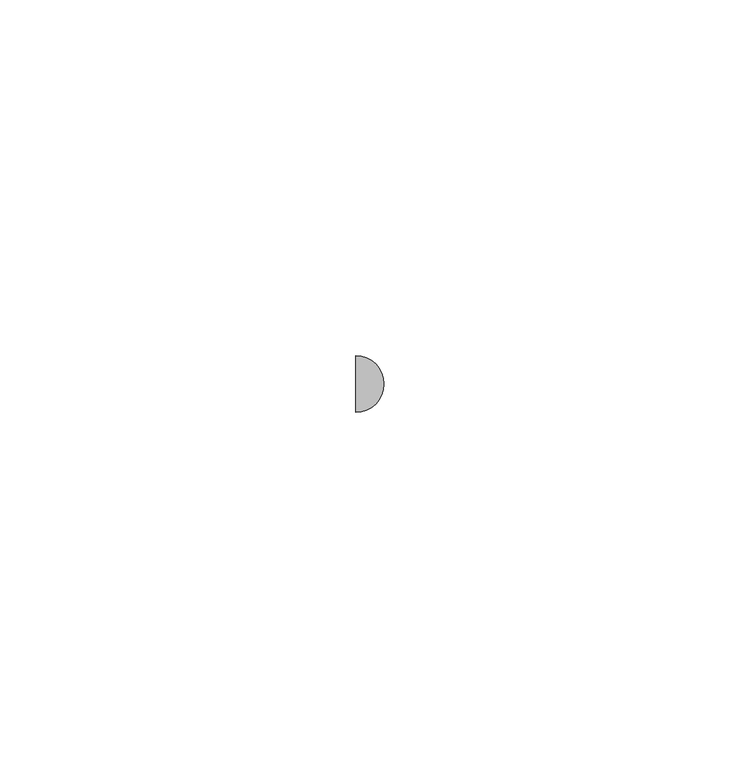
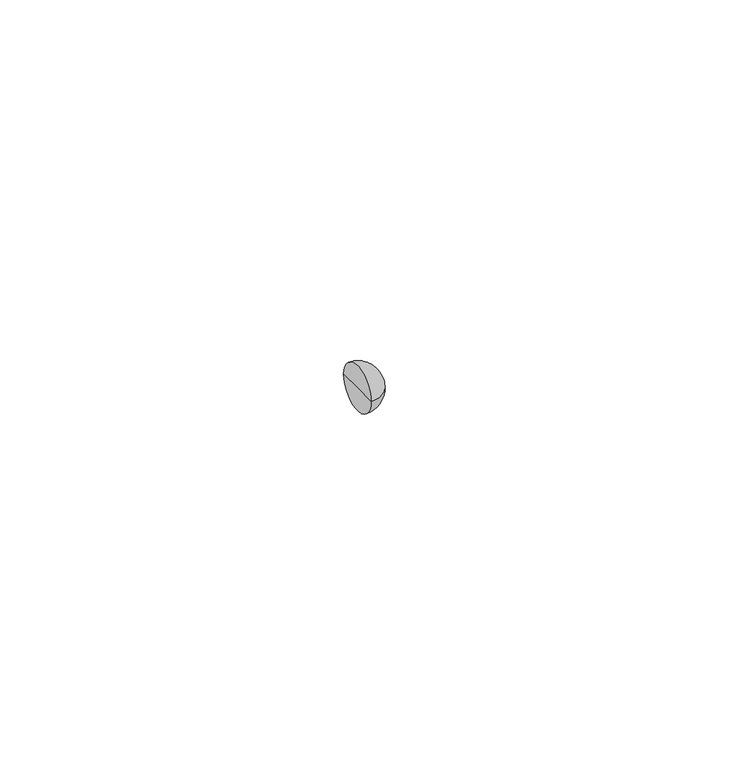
"""IFC4 building model written with IfcOpenShell, lengths in millimetres: pipe fitting geometry, NLRS_52_PIF_UN_PE multi T-stuk_geb : Liggend - Var. DN/OD."""

from ifc_helpers import new_model, si_unit, point, frame, origin, place, context, project, spatial, circle_curve, ellipse_curve, trimmed, source, transform, mapped, element, save
from ifc_brep_helpers import plane_surface, revolved_surface, advanced_brep


def pipe_fitting_bb3acb3a(model_context):
    return source(origin(), model_context, "Body", "AdvancedBrep", [
        advanced_brep(
        [(-85.0, 0.0, 0.0), (-85.0, 4.0, 0.0), (-85.0, -4.0, 0.0), (-81.0, 0.0, 0.0)],
        [
            (0, 1),
            (1, 2, circle_curve(frame((-85.0, 0.0, 0.0), z_axis=(-1.0, 0.0, 0.0), x_axis=(0.0, 1.0, 0.0)), 4.0)),
            (2, 0),
            (2, 1, circle_curve(frame((-85.0, 0.0, 0.0), z_axis=(-1.0, 0.0, 0.0), x_axis=(0.0, 1.0, 0.0)), 4.0)),
            (1, 3, circle_curve(frame((-85.0, 0.0, 0.0), z_axis=(0.0, 0.0, -1.0), x_axis=(-1.0, 0.0, 0.0)), 4.0)),
            (3, 2, circle_curve(frame((-85.0, 0.0, 0.0), z_axis=(0.0, 0.0, -1.0), x_axis=(-1.0, 0.0, 0.0)), 4.0)),
        ],
        [
            plane_surface(frame((-85.0, 0.0, 0.0), z_axis=(-1.0, 0.0, 0.0), x_axis=(0.0, 1.0, 0.0))),
            revolved_surface(trimmed(ellipse_curve(frame((-85.0, 0.0, 0.0), z_axis=(0.0, 0.0, 1.0), x_axis=(-1.0, 0.0, 0.0)), 4.0, 4.0), [point((-81.0, 0.0, 0.0))], [point((-85.0, 4.0, 0.0))], True, "CARTESIAN"), (-83.2274263, 0.0, 0.0), (-1.0, 0.0, 0.0)),
        ],
        [
            (0, [[1, 2, 3]]),
            (0, [[-3, 4, -1]]),
            (1, [[-2, 5, 6]]),
            (1, [[-4, -6, -5]]),
        ],
    ),
    ])


if __name__ == "__main__":
    model = new_model("IFC4")
    model_context = context("Model", 3, world=origin())
    ifc_project = project(units=[si_unit("LENGTHUNIT", "METRE", prefix="MILLI")], contexts=[model_context])
    site = spatial("IfcSite", under=ifc_project)
    building = spatial("IfcBuilding", under=site)
    placement = place(None, origin())
    pipe_fitting_shape = pipe_fitting_bb3acb3a(model_context)
    element("IfcPipeFitting", 1, ObjectType="NLRS_52_PIF_UN_PE multi T-stuk_geb : Liggend - Var. DN/OD", at=placement, inside=building, context=model_context, shape_type="MappedRepresentation", body=[
        mapped(pipe_fitting_shape, transform((0.0, 0.0, 0.0), x_axis=(1.0, 0.0, 0.0), y_axis=(0.0, 1.0, 0.0), z_axis=(0.0, 0.0, 1.0))),
    ])
    save(model, "model.ifc")
